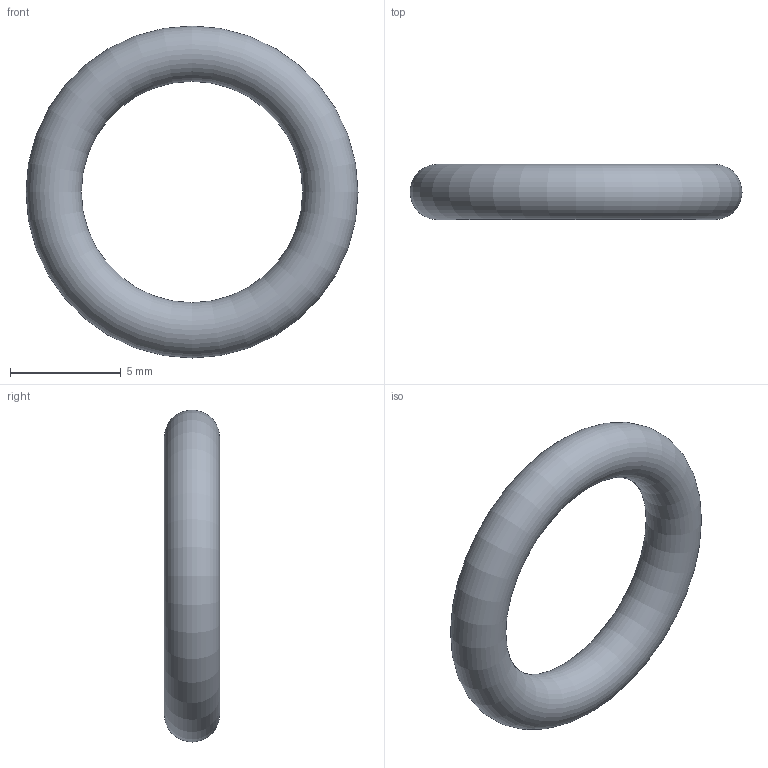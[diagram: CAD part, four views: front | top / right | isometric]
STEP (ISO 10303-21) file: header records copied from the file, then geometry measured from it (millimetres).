
FILE_DESCRIPTION( ( 'STEP AP203' ), '1' );
FILE_NAME( 'C:/Temp/Ganter_Step_05_03_2020/data/3_5/or638/O-Ring OR638-10.00-2.50-70.stp', '2020-03-12T13:44:27', ( 'License CC BY-ND 4.0' ), ( 'CADENAS' ), ' ', 'PARTsolutions', ' ' );
FILE_SCHEMA( ( 'CONFIG_CONTROL_DESIGN' ) );
Length unit declared in the file: millimetre
Products named in the file (1): _O-Ring OR638-10.00-2.50-70
Bounding box: 15 x 2.5 x 15 mm (x, y, z)
Volume: 192.8 mm3; surface area: 308.4 mm2
Topology: 1 solids, 1 shells, 1 faces, 2 edges, 1 vertices
Faces by surface type: torus 1
Entity records: 62 total; most frequent: CC_DESIGN_PERSON_AND_ORGANIZATION_ASSIGNMENT 5, PERSON_AND_ORGANIZATION_ROLE 4, DIRECTION 4, CARTESIAN_POINT 3, DATE_TIME_ROLE 2, CC_DESIGN_DATE_AND_TIME_ASSIGNMENT 2, AXIS2_PLACEMENT_3D 2, DIMENSIONAL_EXPONENTS 2
